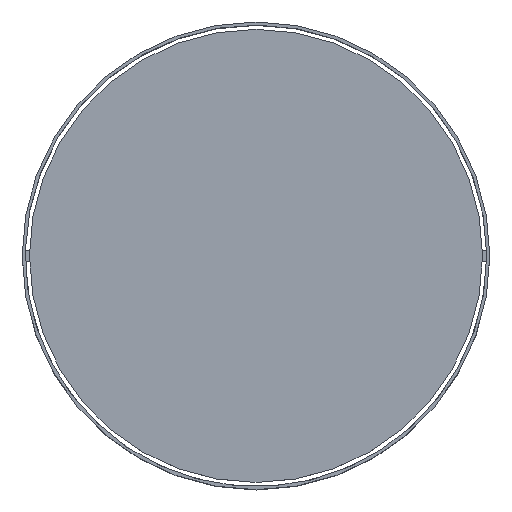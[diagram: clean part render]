
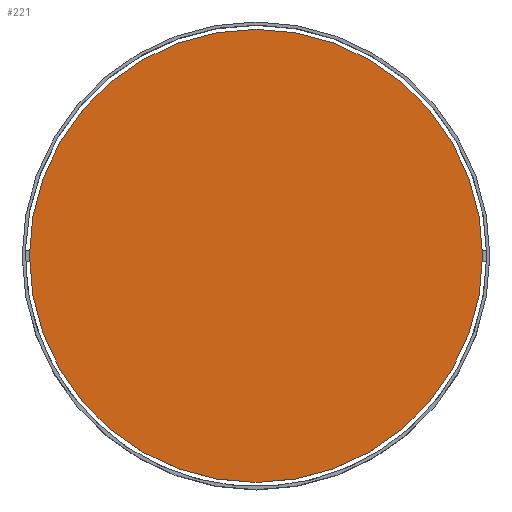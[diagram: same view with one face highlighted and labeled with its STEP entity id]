
A CAD part, top view. The second image highlights one B-rep face of the part: STEP entity #221.
In plain terms, the highlighted planar face has unit normal (0, 0, 1).
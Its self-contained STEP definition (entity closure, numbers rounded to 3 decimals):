
#43=PLANE('',#258);
#71=FACE_OUTER_BOUND('',#99,.T.);
#99=EDGE_LOOP('',(#202));
#114=CIRCLE('',#256,218.);
#133=VERTEX_POINT('',#377);
#156=EDGE_CURVE('',#133,#133,#114,.T.);
#202=ORIENTED_EDGE('',*,*,#156,.F.);
#221=ADVANCED_FACE('',(#71),#43,.T.);
#256=AXIS2_PLACEMENT_3D('',#378,#319,#320);
#258=AXIS2_PLACEMENT_3D('',#380,#323,#324);
#319=DIRECTION('center_axis',(0.,0.,-1.));
#320=DIRECTION('ref_axis',(-1.,0.,0.));
#323=DIRECTION('center_axis',(0.,0.,1.));
#324=DIRECTION('ref_axis',(1.,0.,0.));
#377=CARTESIAN_POINT('',(218.,0.,140.));
#378=CARTESIAN_POINT('Origin',(0.,0.,140.));
#380=CARTESIAN_POINT('Origin',(0.,0.,140.));
